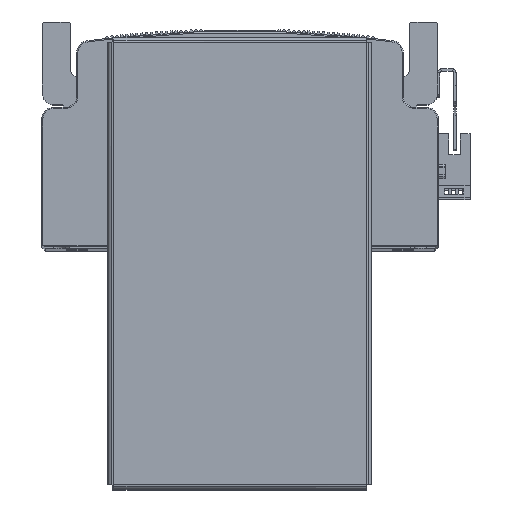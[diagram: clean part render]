
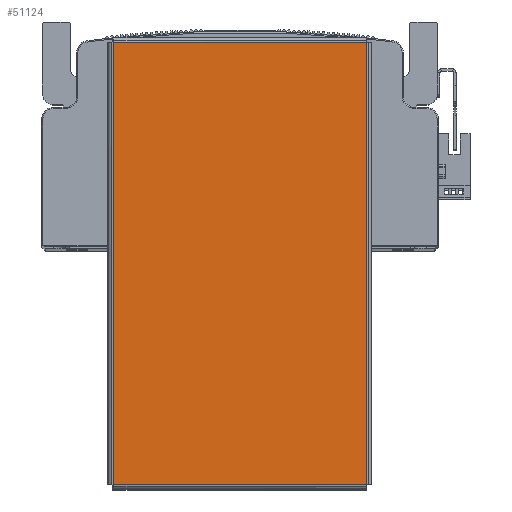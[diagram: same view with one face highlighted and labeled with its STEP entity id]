
A CAD part, top view. The second image highlights one B-rep face of the part: STEP entity #51124.
In plain terms, the highlighted planar face has unit normal (0, 0, 1) as drawn and (0, -1, 0) by its records, which use the part's own axes.
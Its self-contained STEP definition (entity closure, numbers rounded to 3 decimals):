
#426 = AXIS2_PLACEMENT_3D ( 'NONE', #2582, #2562, #2576 ) ;
#2562 = DIRECTION ( 'NONE',  ( 0., 1., 0. ) ) ;
#2576 = DIRECTION ( 'NONE',  ( 0., 0., 1. ) ) ;
#2580 = PLANE ( 'NONE',  #426 ) ;
#2582 = CARTESIAN_POINT ( 'NONE',  ( 0., -1.5, 0. ) ) ;
#9488 = FACE_OUTER_BOUND ( 'NONE', #25855, .T. ) ;
#18316 = CARTESIAN_POINT ( 'NONE',  ( -94.763, -1.5, -54.363 ) ) ;
#24071 = CARTESIAN_POINT ( 'NONE',  ( 94.763, -1.5, 54.363 ) ) ;
#24101 = CARTESIAN_POINT ( 'NONE',  ( -94.763, -1.5, 54.363 ) ) ;
#24128 = CARTESIAN_POINT ( 'NONE',  ( 94.763, -1.5, -54.363 ) ) ;
#25855 = EDGE_LOOP ( 'NONE', ( #28436, #28354, #28407, #28438 ) ) ;
#28354 = ORIENTED_EDGE ( 'NONE', *, *, #67301, .T. ) ;
#28407 = ORIENTED_EDGE ( 'NONE', *, *, #67273, .T. ) ;
#28436 = ORIENTED_EDGE ( 'NONE', *, *, #67235, .T. ) ;
#28438 = ORIENTED_EDGE ( 'NONE', *, *, #67194, .T. ) ;
#47253 = VECTOR ( 'NONE', #52691, 1000. ) ;
#47286 = LINE ( 'NONE', #52797, #47288 ) ;
#47288 = VECTOR ( 'NONE', #52802, 1000. ) ;
#47309 = LINE ( 'NONE', #52693, #47253 ) ;
#47391 = LINE ( 'NONE', #52958, #47395 ) ;
#47395 = VECTOR ( 'NONE', #52950, 1000. ) ;
#47491 = LINE ( 'NONE', #53046, #47494 ) ;
#47494 = VECTOR ( 'NONE', #53056, 1000. ) ;
#51124 = ADVANCED_FACE ( 'NONE', ( #9488 ), #2580, .F. ) ;
#52691 = DIRECTION ( 'NONE',  ( 0., 0., 1. ) ) ;
#52693 = CARTESIAN_POINT ( 'NONE',  ( 94.763, -1.5, -54.393 ) ) ;
#52797 = CARTESIAN_POINT ( 'NONE',  ( 94.793, -1.5, 54.363 ) ) ;
#52802 = DIRECTION ( 'NONE',  ( -1., 0., 0. ) ) ;
#52950 = DIRECTION ( 'NONE',  ( 1., 0., 0. ) ) ;
#52958 = CARTESIAN_POINT ( 'NONE',  ( -94.793, -1.5, -54.363 ) ) ;
#53046 = CARTESIAN_POINT ( 'NONE',  ( -94.763, -1.5, 54.393 ) ) ;
#53056 = DIRECTION ( 'NONE',  ( 0., 0., -1. ) ) ;
#60031 = VERTEX_POINT ( 'NONE', #18316 ) ;
#62084 = VERTEX_POINT ( 'NONE', #24071 ) ;
#62091 = VERTEX_POINT ( 'NONE', #24101 ) ;
#62116 = VERTEX_POINT ( 'NONE', #24128 ) ;
#67194 = EDGE_CURVE ( 'NONE', #62116, #62084, #47309, .T. ) ;
#67235 = EDGE_CURVE ( 'NONE', #62084, #62091, #47286, .T. ) ;
#67273 = EDGE_CURVE ( 'NONE', #60031, #62116, #47391, .T. ) ;
#67301 = EDGE_CURVE ( 'NONE', #62091, #60031, #47491, .T. ) ;
